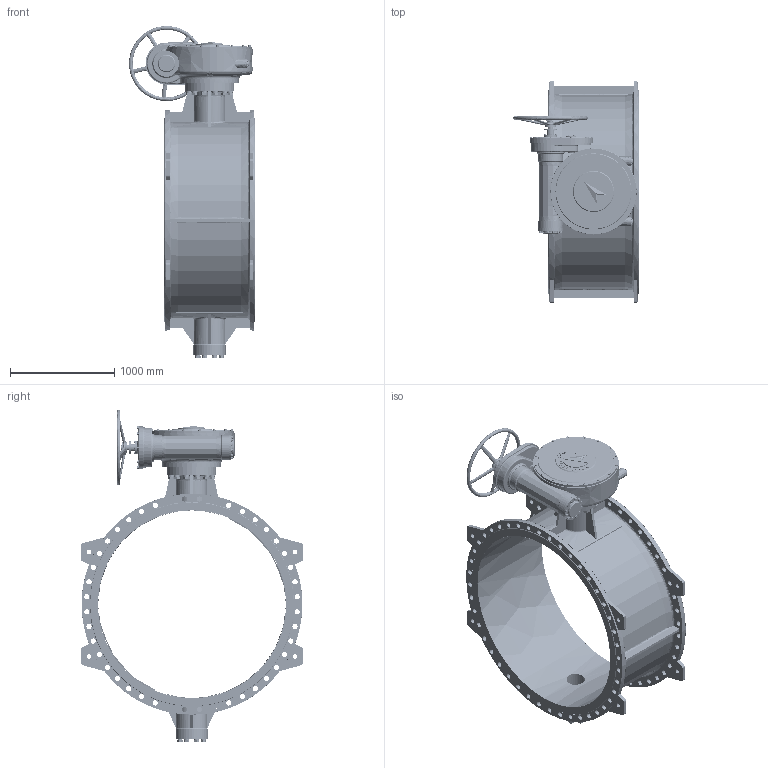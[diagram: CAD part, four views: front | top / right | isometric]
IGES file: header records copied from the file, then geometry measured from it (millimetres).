
Start section: SolidWorks IGES file using analytic representation for surfaces
Global section: file name: F:\2014年工作\泰科菲三维模型资料\PN10\DN1800 PN10\1800-10.IGS; native system: SolidWorks 2012; preprocessor: SolidWorks 2012; author: Administrator; date: 150115.110334; units: millimetre
Bounding box: 1206.54 x 2125 x 3181.2 mm (x, y, z)
Surface area: 25938599.4 mm2 (no closed solid volume)
Topology: 0 solids, 0 shells, 4543 faces, 96265 edges, 96103 vertices
Faces by surface type: revolution 2388, bspline 2155
